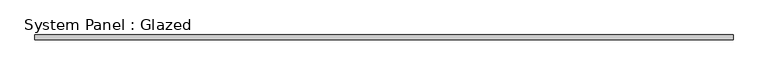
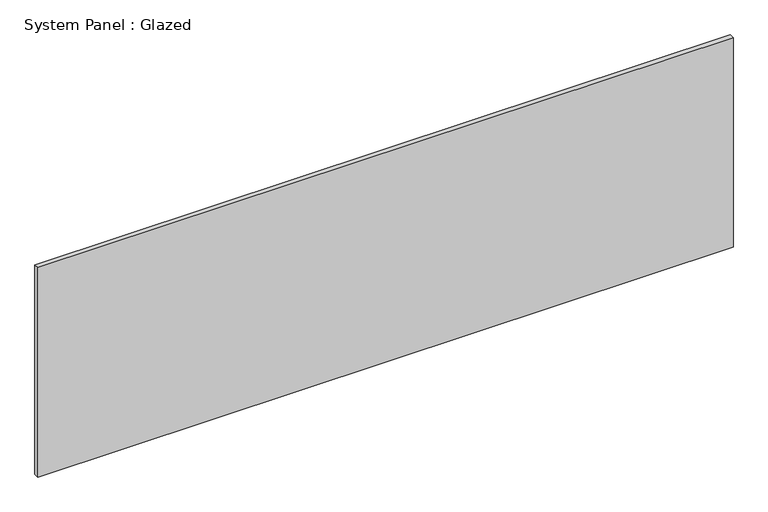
"""IFC4 building model written with IfcOpenShell, lengths in millimetres: plate geometry, System Panel : Glazed."""

from ifc_helpers import new_model, si_unit, origin, origin_with_axes, place, context, project, spatial, polyline, outline, extrude, source, transform, mapped, element, save


def system_panel_glazed_01970cee(model_context):
    return source(origin(), model_context, "Body", "SweptSolid", [
        extrude(outline(polyline([(1765.8241963, -49.5), (-1765.8241963, -49.5), (-1765.8241963, -24.5), (1765.8241963, -24.5), (1765.8241963, -49.5)])), origin_with_axes(), (0.0, 0.0, 1.0), 1125.0),
    ])


if __name__ == "__main__":
    model = new_model("IFC4")
    model_context = context("Model", 3, world=origin())
    ifc_project = project(units=[si_unit("LENGTHUNIT", "METRE", prefix="MILLI")], contexts=[model_context])
    site = spatial("IfcSite", under=ifc_project)
    building = spatial("IfcBuilding", under=site)
    placement = place(None, origin())
    system_panel_glazed_shape = system_panel_glazed_01970cee(model_context)
    element("IfcPlate", 1, ObjectType="System Panel : Glazed", at=placement, inside=building, context=model_context, shape_type="MappedRepresentation", body=[
        mapped(system_panel_glazed_shape, transform((0.0, 0.0, 0.0), x_axis=(1.0, 0.0, 0.0), y_axis=(0.0, 1.0, 0.0), z_axis=(0.0, 0.0, 1.0))),
    ])
    save(model, "model.ifc")
